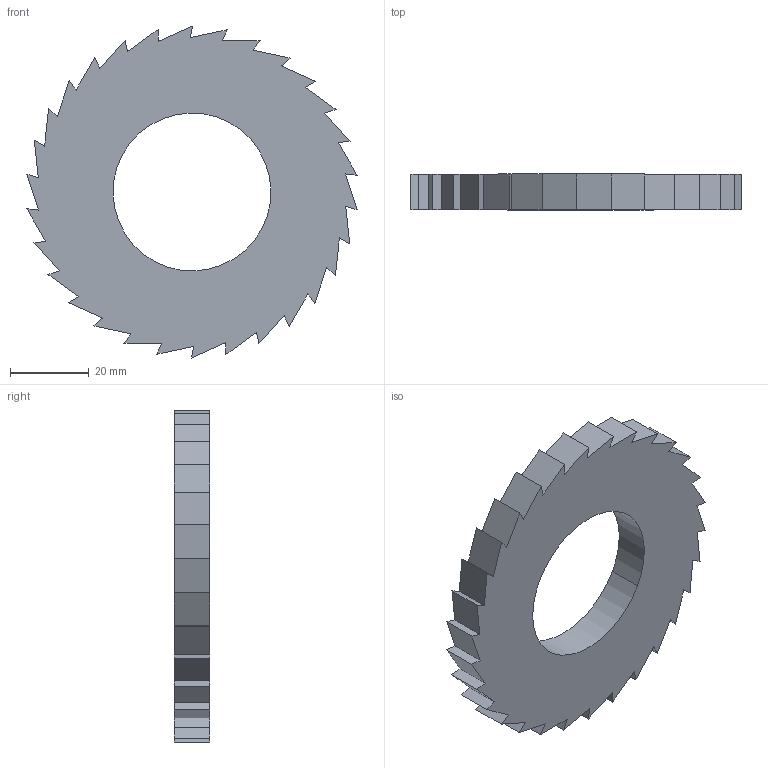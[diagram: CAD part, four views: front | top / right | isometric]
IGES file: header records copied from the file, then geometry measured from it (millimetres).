
Start section: START RECORD GO HERE.
Global section: file name: ROUE A ROCHET.igs; native system: IBM CATIA IGES - CATIA Version 5 Release 18 ; preprocessor: CATIA Version 5 Release 18 ; author: Propriétaire; organization: FUJITSU-79916BB; date: 20090111.191614; units: millimetre
Bounding box: 83.72 x 9 x 84.15 mm (x, y, z)
Surface area: 12267.8 mm2 (no closed solid volume)
Topology: 0 solids, 0 shells, 64 faces, 372 edges, 372 vertices
Faces by surface type: plane 62, revolution 2
